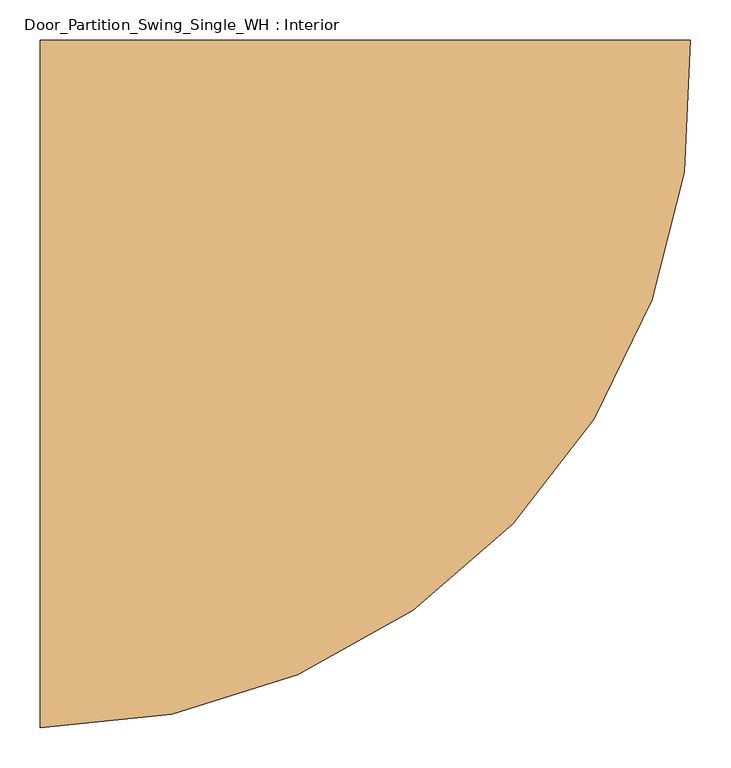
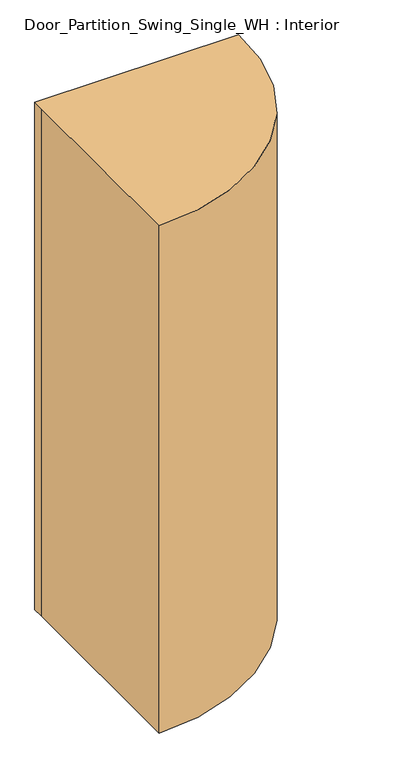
"""IFC4 building model written with IfcOpenShell, lengths in millimetres: door geometry, Door_Partition_Swing_Single_WH : Interior."""

from ifc_helpers import new_model, si_unit, point, frame_2d, origin, origin_with_axes, place, context, project, spatial, polyline, circle_curve, trimmed, segment, composite_curve, outline, extrude, source, transform, mapped, element, save


def door_partition_swing_single_wh_interior_069734b8(model_context):
    return source(origin(), model_context, "Body", "SweptSolid", [
        extrude(outline(composite_curve([segment(polyline([(-388.0346798, -57.15), (423.5489803, -57.15)]), True, "CONTINUOUS"), segment(trimmed(circle_curve(frame_2d((-388.0346798, -101.6)), 812.8), [point((423.5489803, -57.15))], [point((-388.0346798, -914.4))], False, "CARTESIAN"), True, "CONTINUOUS"), segment(polyline([(-388.0346798, -914.4), (-388.0346798, -101.6), (-388.0346798, -57.15)]), True, "CONTINUOUS")], self_intersect=False)), origin_with_axes(), (0.0, 0.0, 1.0), 2133.6),
    ])


if __name__ == "__main__":
    model = new_model("IFC4")
    model_context = context("Model", 3, world=origin())
    ifc_project = project(units=[si_unit("LENGTHUNIT", "METRE", prefix="MILLI")], contexts=[model_context])
    site = spatial("IfcSite", under=ifc_project)
    building = spatial("IfcBuilding", under=site)
    placement = place(None, origin())
    door_partition_swing_single_wh_interior_shape = door_partition_swing_single_wh_interior_069734b8(model_context)
    element("IfcDoor", 1, ObjectType="Door_Partition_Swing_Single_WH : Interior", at=placement, inside=building, context=model_context, shape_type="MappedRepresentation", body=[
        mapped(door_partition_swing_single_wh_interior_shape, transform((0.0, 0.0, 0.0), x_axis=(1.0, 0.0, 0.0), y_axis=(0.0, 1.0, 0.0), z_axis=(0.0, 0.0, 1.0))),
    ])
    save(model, "model.ifc")
